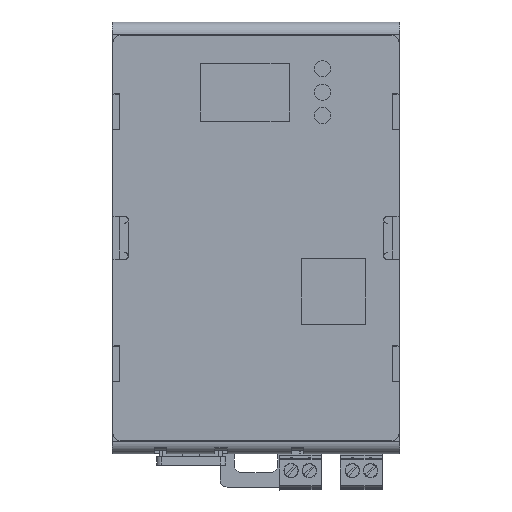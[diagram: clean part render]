
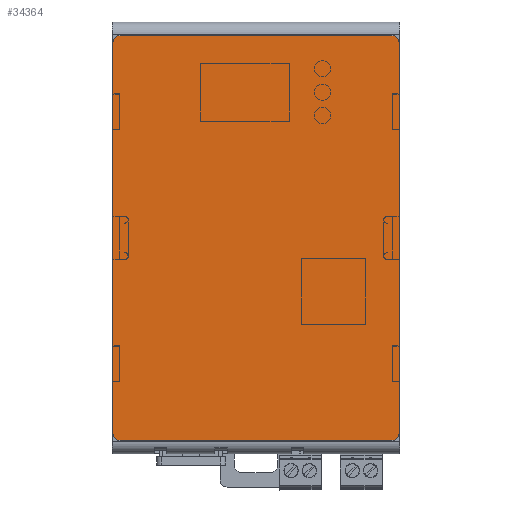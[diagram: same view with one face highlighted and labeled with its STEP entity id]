
A CAD part, left-side view. The second image highlights one B-rep face of the part: STEP entity #34364.
In plain terms, the highlighted planar face has unit normal (-1, 0, 0).
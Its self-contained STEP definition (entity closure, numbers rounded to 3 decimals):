
#528 = EDGE_CURVE ( 'NONE', #6375, #44877, #78282, .T. ) ;
#4807 = CARTESIAN_POINT ( 'NONE',  ( -50.2, -39.75, 56.25 ) ) ;
#6375 = VERTEX_POINT ( 'NONE', #118481 ) ;
#7953 = DIRECTION ( 'NONE',  ( 1., 0., 0. ) ) ;
#9703 = CARTESIAN_POINT ( 'NONE',  ( -50.2, -37.75, 54.25 ) ) ;
#11241 = AXIS2_PLACEMENT_3D ( 'NONE', #4807, #76160, #15088 ) ;
#13329 = LINE ( 'NONE', #67442, #67598 ) ;
#13635 = CARTESIAN_POINT ( 'NONE',  ( -50.2, 39.75, -54.25 ) ) ;
#14640 = PLANE ( 'NONE',  #11241 ) ;
#15088 = DIRECTION ( 'NONE',  ( 0., 0., -1. ) ) ;
#18658 = ORIENTED_EDGE ( 'NONE', *, *, #96300, .T. ) ;
#19039 = CARTESIAN_POINT ( 'NONE',  ( -50.2, 39.75, 56.25 ) ) ;
#19910 = DIRECTION ( 'NONE',  ( 0., 0., 1. ) ) ;
#19913 = DIRECTION ( 'NONE',  ( 0., 1., 0. ) ) ;
#25008 = CARTESIAN_POINT ( 'NONE',  ( -50.2, -39.75, 54.25 ) ) ;
#26279 = LINE ( 'NONE', #30389, #104474 ) ;
#28981 = AXIS2_PLACEMENT_3D ( 'NONE', #107539, #7953, #81074 ) ;
#30389 = CARTESIAN_POINT ( 'NONE',  ( -50.2, -39.75, -56.25 ) ) ;
#32188 = EDGE_CURVE ( 'NONE', #78398, #77743, #60901, .T. ) ;
#34364 = ADVANCED_FACE ( 'NONE', ( #106564 ), #14640, .F. ) ;
#34688 = CARTESIAN_POINT ( 'NONE',  ( -50.2, 37.75, 54.25 ) ) ;
#39474 = CARTESIAN_POINT ( 'NONE',  ( -50.2, 39.75, 54.25 ) ) ;
#40636 = DIRECTION ( 'NONE',  ( 0., -1., 0. ) ) ;
#42511 = CIRCLE ( 'NONE', #85158, 2. ) ;
#43335 = EDGE_CURVE ( 'NONE', #83428, #124962, #128183, .T. ) ;
#44877 = VERTEX_POINT ( 'NONE', #87330 ) ;
#44958 = DIRECTION ( 'NONE',  ( 0., 0., 1. ) ) ;
#47133 = CARTESIAN_POINT ( 'NONE',  ( -50.2, 39.75, -56.25 ) ) ;
#51179 = VECTOR ( 'NONE', #19913, 1000. ) ;
#52948 = DIRECTION ( 'NONE',  ( 1., 0., 0. ) ) ;
#56035 = VECTOR ( 'NONE', #128601, 1000. ) ;
#57863 = EDGE_CURVE ( 'NONE', #131687, #44877, #42511, .T. ) ;
#60901 = CIRCLE ( 'NONE', #81758, 2. ) ;
#65229 = CARTESIAN_POINT ( 'NONE',  ( -50.2, 37.75, -56.25 ) ) ;
#66301 = CIRCLE ( 'NONE', #128005, 2. ) ;
#67442 = CARTESIAN_POINT ( 'NONE',  ( -50.2, -39.75, 56.25 ) ) ;
#67598 = VECTOR ( 'NONE', #127979, 1000. ) ;
#76009 = EDGE_LOOP ( 'NONE', ( #114070, #101875, #123578, #105589, #18658, #94527, #128811, #129816 ) ) ;
#76160 = DIRECTION ( 'NONE',  ( 1., 0., 0. ) ) ;
#77743 = VERTEX_POINT ( 'NONE', #127002 ) ;
#78282 = LINE ( 'NONE', #19039, #51179 ) ;
#78398 = VERTEX_POINT ( 'NONE', #116670 ) ;
#81017 = DIRECTION ( 'NONE',  ( 1., 0., 0. ) ) ;
#81074 = DIRECTION ( 'NONE',  ( 0., 0., 1. ) ) ;
#81758 = AXIS2_PLACEMENT_3D ( 'NONE', #113973, #52948, #124168 ) ;
#83428 = VERTEX_POINT ( 'NONE', #65229 ) ;
#85158 = AXIS2_PLACEMENT_3D ( 'NONE', #34688, #106063, #44958 ) ;
#86331 = LINE ( 'NONE', #47133, #56035 ) ;
#87330 = CARTESIAN_POINT ( 'NONE',  ( -50.2, 37.75, 56.25 ) ) ;
#89451 = EDGE_CURVE ( 'NONE', #6375, #116121, #66301, .T. ) ;
#94527 = ORIENTED_EDGE ( 'NONE', *, *, #89451, .F. ) ;
#96300 = EDGE_CURVE ( 'NONE', #78398, #116121, #13329, .T. ) ;
#101875 = ORIENTED_EDGE ( 'NONE', *, *, #43335, .F. ) ;
#104474 = VECTOR ( 'NONE', #40636, 1000. ) ;
#105589 = ORIENTED_EDGE ( 'NONE', *, *, #32188, .F. ) ;
#106063 = DIRECTION ( 'NONE',  ( 1., 0., 0. ) ) ;
#106564 = FACE_OUTER_BOUND ( 'NONE', #76009, .T. ) ;
#107399 = EDGE_CURVE ( 'NONE', #83428, #77743, #26279, .T. ) ;
#107539 = CARTESIAN_POINT ( 'NONE',  ( -50.2, 37.75, -54.25 ) ) ;
#113973 = CARTESIAN_POINT ( 'NONE',  ( -50.2, -37.75, -54.25 ) ) ;
#114070 = ORIENTED_EDGE ( 'NONE', *, *, #118492, .T. ) ;
#116121 = VERTEX_POINT ( 'NONE', #25008 ) ;
#116670 = CARTESIAN_POINT ( 'NONE',  ( -50.2, -39.75, -54.25 ) ) ;
#118481 = CARTESIAN_POINT ( 'NONE',  ( -50.2, -37.75, 56.25 ) ) ;
#118492 = EDGE_CURVE ( 'NONE', #131687, #124962, #86331, .T. ) ;
#123578 = ORIENTED_EDGE ( 'NONE', *, *, #107399, .T. ) ;
#124168 = DIRECTION ( 'NONE',  ( 0., 0., 1. ) ) ;
#124962 = VERTEX_POINT ( 'NONE', #13635 ) ;
#127002 = CARTESIAN_POINT ( 'NONE',  ( -50.2, -37.75, -56.25 ) ) ;
#127979 = DIRECTION ( 'NONE',  ( 0., 0., 1. ) ) ;
#128005 = AXIS2_PLACEMENT_3D ( 'NONE', #9703, #81017, #19910 ) ;
#128183 = CIRCLE ( 'NONE', #28981, 2. ) ;
#128601 = DIRECTION ( 'NONE',  ( 0., 0., -1. ) ) ;
#128811 = ORIENTED_EDGE ( 'NONE', *, *, #528, .T. ) ;
#129816 = ORIENTED_EDGE ( 'NONE', *, *, #57863, .F. ) ;
#131687 = VERTEX_POINT ( 'NONE', #39474 ) ;
